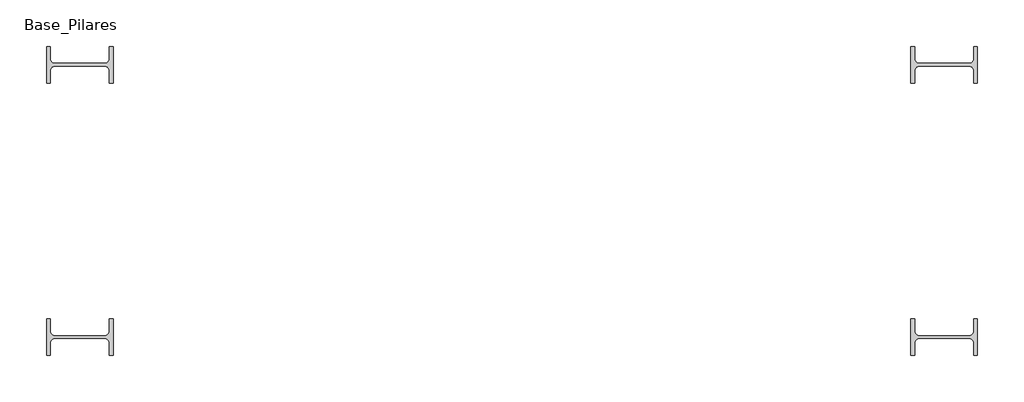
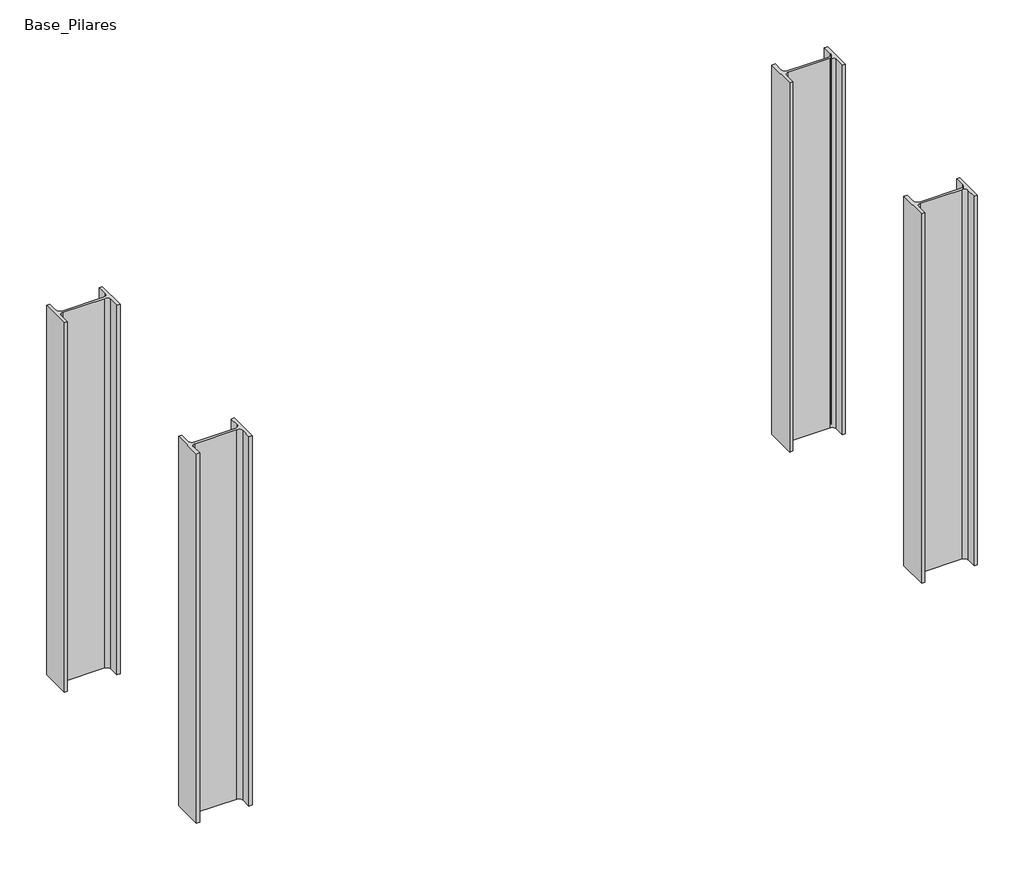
# One storey: 4 columns.
"""IFC4 building model written with IfcOpenShell, lengths in millimetres."""

from ifc_helpers import new_model, si_unit, point, frame, frame_2d, origin, place, context, project, spatial, polyline, circle_curve, trimmed, segment, composite_curve, outline, extrude, element, save

model = new_model("IFC4")

# Units and contexts
model_context = context("Model", 3, world=origin())
ifc_project = project(units=[si_unit("LENGTHUNIT", "METRE", prefix="MILLI")], contexts=[model_context])

# Site, building, storey
site = spatial("IfcSite", under=ifc_project)
building = spatial("IfcBuilding", under=site)
storey = spatial("IfcBuildingStorey", under=building, Name="Base_Pilares", Elevation=-950.0)

# Columns
placement = place(None, origin())
element("IfcColumn", 1, ObjectType="IPE Column : IPE100", at=placement, inside=storey, context=model_context, shape_type="SweptSolid", body=[
    extrude(outline(composite_curve([segment(polyline([(150.0, 427.5), (144.3, 427.5), (144.3, 445.95)]), True, "CONTINUOUS"), segment(trimmed(circle_curve(frame_2d((137.3, 445.95)), 7.0), [point((144.3, 445.95))], [point((137.3, 452.95))], True, "CARTESIAN"), True, "CONTINUOUS"), segment(polyline([(137.3, 452.95), (62.7, 452.95)]), True, "CONTINUOUS"), segment(trimmed(circle_curve(frame_2d((62.7, 445.95)), 7.0), [point((62.7, 452.95))], [point((55.7, 445.95))], True, "CARTESIAN"), True, "CONTINUOUS"), segment(polyline([(55.7, 445.95), (55.7, 427.5), (50.0, 427.5), (50.0, 482.5), (55.7, 482.5), (55.7, 464.05)]), True, "CONTINUOUS"), segment(trimmed(circle_curve(frame_2d((62.7, 464.05)), 7.0), [point((55.7, 464.05))], [point((62.7, 457.05))], True, "CARTESIAN"), True, "CONTINUOUS"), segment(polyline([(62.7, 457.05), (137.3, 457.05)]), True, "CONTINUOUS"), segment(trimmed(circle_curve(frame_2d((137.3, 464.05)), 7.0), [point((137.3, 457.05))], [point((144.3, 464.05))], True, "CARTESIAN"), True, "CONTINUOUS"), segment(polyline([(144.3, 464.05), (144.3, 482.5), (150.0, 482.5), (150.0, 427.5)]), True, "CONTINUOUS")], self_intersect=False)), frame((0.0, 0.0, -950.0), z_axis=(0.0, 0.0, 1.0), x_axis=(1.0, 0.0, 0.0)), (0.0, 0.0, 1.0), 700.0),
])
element("IfcColumn", 2, ObjectType="IPE Column : IPE100", at=placement, inside=storey, context=model_context, shape_type="SweptSolid", body=[
    extrude(outline(composite_curve([segment(polyline([(1450.0, 427.5), (1444.3, 427.5), (1444.3, 445.95)]), True, "CONTINUOUS"), segment(trimmed(circle_curve(frame_2d((1437.3, 445.95)), 7.0), [point((1444.3, 445.95))], [point((1437.3, 452.95))], True, "CARTESIAN"), True, "CONTINUOUS"), segment(polyline([(1437.3, 452.95), (1362.7, 452.95)]), True, "CONTINUOUS"), segment(trimmed(circle_curve(frame_2d((1362.7, 445.95)), 7.0), [point((1362.7, 452.95))], [point((1355.7, 445.95))], True, "CARTESIAN"), True, "CONTINUOUS"), segment(polyline([(1355.7, 445.95), (1355.7, 427.5), (1350.0, 427.5), (1350.0, 482.5), (1355.7, 482.5), (1355.7, 464.05)]), True, "CONTINUOUS"), segment(trimmed(circle_curve(frame_2d((1362.7, 464.05)), 7.0), [point((1355.7, 464.05))], [point((1362.7, 457.05))], True, "CARTESIAN"), True, "CONTINUOUS"), segment(polyline([(1362.7, 457.05), (1437.3, 457.05)]), True, "CONTINUOUS"), segment(trimmed(circle_curve(frame_2d((1437.3, 464.05)), 7.0), [point((1437.3, 457.05))], [point((1444.3, 464.05))], True, "CARTESIAN"), True, "CONTINUOUS"), segment(polyline([(1444.3, 464.05), (1444.3, 482.5), (1450.0, 482.5), (1450.0, 427.5)]), True, "CONTINUOUS")], self_intersect=False)), frame((0.0, 0.0, -950.0), z_axis=(0.0, 0.0, 1.0), x_axis=(1.0, 0.0, 0.0)), (0.0, 0.0, 1.0), 700.0),
])
element("IfcColumn", 3, ObjectType="IPE Column : IPE100", at=placement, inside=storey, context=model_context, shape_type="SweptSolid", body=[
    extrude(outline(composite_curve([segment(polyline([(150.0, 17.5), (144.3, 17.5), (144.3, 35.95)]), True, "CONTINUOUS"), segment(trimmed(circle_curve(frame_2d((137.3, 35.95)), 7.0), [point((144.3, 35.95))], [point((137.3, 42.95))], True, "CARTESIAN"), True, "CONTINUOUS"), segment(polyline([(137.3, 42.95), (62.7, 42.95)]), True, "CONTINUOUS"), segment(trimmed(circle_curve(frame_2d((62.7, 35.95)), 7.0), [point((62.7, 42.95))], [point((55.7, 35.95))], True, "CARTESIAN"), True, "CONTINUOUS"), segment(polyline([(55.7, 35.95), (55.7, 17.5), (50.0, 17.5), (50.0, 72.5), (55.7, 72.5), (55.7, 54.05)]), True, "CONTINUOUS"), segment(trimmed(circle_curve(frame_2d((62.7, 54.05)), 7.0), [point((55.7, 54.05))], [point((62.7, 47.05))], True, "CARTESIAN"), True, "CONTINUOUS"), segment(polyline([(62.7, 47.05), (137.3, 47.05)]), True, "CONTINUOUS"), segment(trimmed(circle_curve(frame_2d((137.3, 54.05)), 7.0), [point((137.3, 47.05))], [point((144.3, 54.05))], True, "CARTESIAN"), True, "CONTINUOUS"), segment(polyline([(144.3, 54.05), (144.3, 72.5), (150.0, 72.5), (150.0, 17.5)]), True, "CONTINUOUS")], self_intersect=False)), frame((0.0, 0.0, -950.0), z_axis=(0.0, 0.0, 1.0), x_axis=(1.0, 0.0, 0.0)), (0.0, 0.0, 1.0), 700.0),
])
element("IfcColumn", 4, ObjectType="IPE Column : IPE100", at=placement, inside=storey, context=model_context, shape_type="SweptSolid", body=[
    extrude(outline(composite_curve([segment(polyline([(1450.0, 17.5), (1444.3, 17.5), (1444.3, 35.95)]), True, "CONTINUOUS"), segment(trimmed(circle_curve(frame_2d((1437.3, 35.95)), 7.0), [point((1444.3, 35.95))], [point((1437.3, 42.95))], True, "CARTESIAN"), True, "CONTINUOUS"), segment(polyline([(1437.3, 42.95), (1362.7, 42.95)]), True, "CONTINUOUS"), segment(trimmed(circle_curve(frame_2d((1362.7, 35.95)), 7.0), [point((1362.7, 42.95))], [point((1355.7, 35.95))], True, "CARTESIAN"), True, "CONTINUOUS"), segment(polyline([(1355.7, 35.95), (1355.7, 17.5), (1350.0, 17.5), (1350.0, 72.5), (1355.7, 72.5), (1355.7, 54.05)]), True, "CONTINUOUS"), segment(trimmed(circle_curve(frame_2d((1362.7, 54.05)), 7.0), [point((1355.7, 54.05))], [point((1362.7, 47.05))], True, "CARTESIAN"), True, "CONTINUOUS"), segment(polyline([(1362.7, 47.05), (1437.3, 47.05)]), True, "CONTINUOUS"), segment(trimmed(circle_curve(frame_2d((1437.3, 54.05)), 7.0), [point((1437.3, 47.05))], [point((1444.3, 54.05))], True, "CARTESIAN"), True, "CONTINUOUS"), segment(polyline([(1444.3, 54.05), (1444.3, 72.5), (1450.0, 72.5), (1450.0, 17.5)]), True, "CONTINUOUS")], self_intersect=False)), frame((0.0, 0.0, -950.0), z_axis=(0.0, 0.0, 1.0), x_axis=(1.0, 0.0, 0.0)), (0.0, 0.0, 1.0), 700.0),
])

save(model, "model.ifc")
